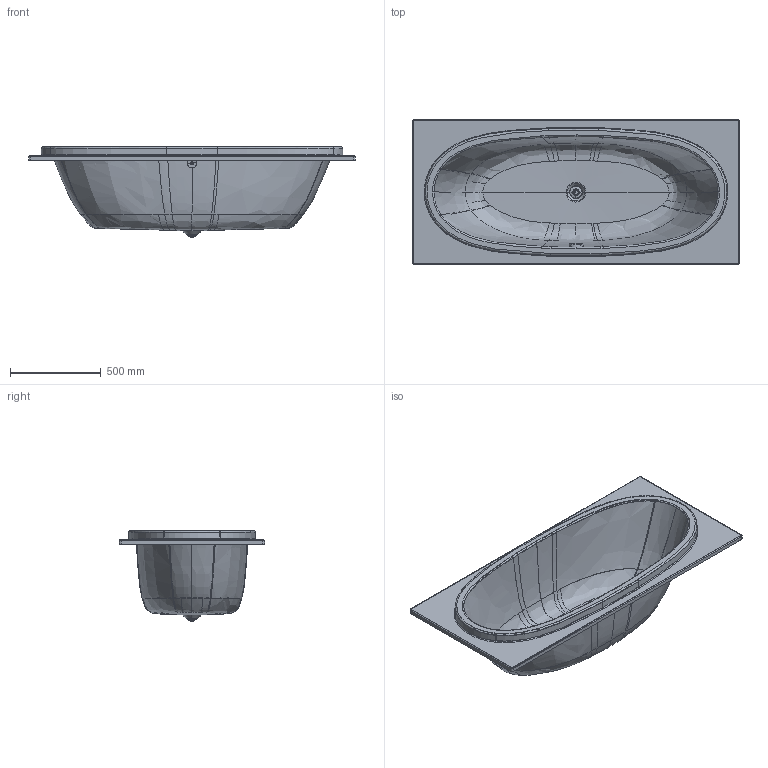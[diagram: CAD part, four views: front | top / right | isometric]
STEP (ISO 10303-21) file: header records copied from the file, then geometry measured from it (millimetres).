
FILE_DESCRIPTION(/* description */ (''),/* implementation_level */ '2;1');
FILE_NAME(/* name */ '700679',/* time_stamp */ '2025-01-07T13:49:58+01:00',/* author */ (''),/* organization */ (''),/* preprocessor_version */ 'ST-DEVELOPER v16.5',/* originating_system */ 'Rhino 7.37',/* authorisation */ '');
FILE_SCHEMA (('CONFIG_CONTROL_DESIGN'));
Length unit declared in the file: millimetre
Products named in the file (1): Document
Bounding box: 1800 x 800 x 499.1 mm (x, y, z)
Volume: 11635774.9 mm3; surface area: 5739837.4 mm2
Topology: 4 solids, 4 shells, 536 faces, 1334 edges, 783 vertices
Faces by surface type: bspline 311, plane 115, cylinder 110
Entity records: 42946 total; most frequent: CARTESIAN_POINT 34669, ORIENTED_EDGE 2652, EDGE_CURVE 1326, B_SPLINE_CURVE_WITH_KNOTS 909, VERTEX_POINT 783, EDGE_LOOP 553, ADVANCED_FACE 536, FACE_OUTER_BOUND 536
